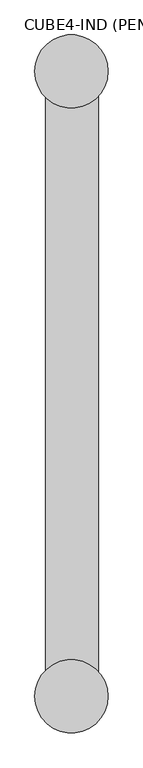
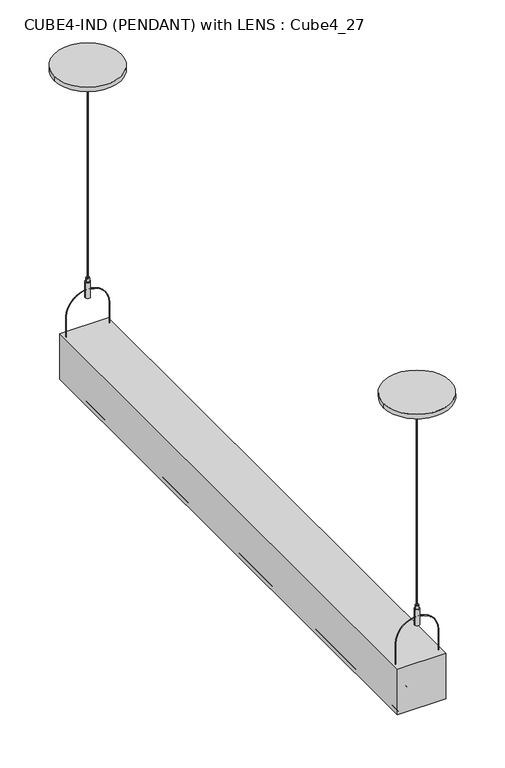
"""IFC4 building model written with IfcOpenShell, lengths in millimetres: light fixture geometry, CUBE4-IND (PENDANT) with LENS : Cube4_27."""

from ifc_helpers import new_model, si_unit, point, frame, frame_2d, origin, place, context, project, spatial, polyline, circle_curve, ellipse_curve, trimmed, segment, composite_curve, outline, extrude, source, transform, mapped, element, save
from ifc_brep_helpers import plane_surface, cylinder_surface, revolved_surface, advanced_brep


def cube4_ind_pendant_with_lens_cube4_27_f301a707(model_context):
    return source(origin(), model_context, "Body", "SolidModel", [
        extrude(outline(polyline([(40.890626, -245.9184955), (-39.1261014, -245.9184955), (-39.1261014, 963.9150258), (40.890626, 963.9150258), (40.890626, -245.9184955)])), frame((0.0, 0.0, 1756.1), z_axis=(0.0, 0.0, 1.0), x_axis=(1.0, 0.0, 0.0)), (0.0, 0.0, 1.0), 3.6292759),
        advanced_brep(
        [(45.6172841, 953.819066, 1855.1), (44.6172841, 953.819066, 1855.1), (44.6172841, 953.819066, 1900.1), (45.6172841, 953.819066, 1900.1), (-45.3827159, 953.819066, 1900.1), (-44.3827159, 953.819066, 1900.1), (-45.3827159, 953.819066, 1855.1), (-44.3827159, 953.819066, 1855.1)],
        [
            (0, 1, circle_curve(frame((45.1172841, 953.819066, 1855.1), z_axis=(0.0, 0.0, -1.0), x_axis=(-1.0, 0.0, 0.0)), 0.5)),
            (1, 0, circle_curve(frame((45.1172841, 953.819066, 1855.1), z_axis=(0.0, 0.0, -1.0), x_axis=(-1.0, 0.0, 0.0)), 0.5)),
            (1, 2),
            (2, 3, circle_curve(frame((45.1172841, 953.819066, 1900.1), z_axis=(0.0, 0.0, -1.0), x_axis=(-1.0, 0.0, 0.0)), 0.5)),
            (3, 0),
            (3, 2, circle_curve(frame((45.1172841, 953.819066, 1900.1), z_axis=(0.0, 0.0, -1.0), x_axis=(-1.0, 0.0, 0.0)), 0.5)),
            (4, 3, circle_curve(frame((0.1172841, 953.819066, 1900.1), z_axis=(0.0, 1.0, 0.0), x_axis=(1.0, 0.0, 0.0)), 45.5)),
            (2, 5, circle_curve(frame((0.1172841, 953.819066, 1900.1), z_axis=(0.0, -1.0, 0.0), x_axis=(1.0, 0.0, 0.0)), 44.5)),
            (5, 4, circle_curve(frame((-44.8827159, 953.819066, 1900.1), z_axis=(0.0, 0.0, 1.0), x_axis=(1.0, 0.0, 0.0)), 0.5)),
            (4, 5, circle_curve(frame((-44.8827159, 953.819066, 1900.1), z_axis=(0.0, 0.0, 1.0), x_axis=(1.0, 0.0, 0.0)), 0.5)),
            (6, 7, circle_curve(frame((-44.8827159, 953.819066, 1855.1), z_axis=(0.0, 0.0, -1.0), x_axis=(1.0, 0.0, 0.0)), 0.5)),
            (7, 6, circle_curve(frame((-44.8827159, 953.819066, 1855.1), z_axis=(0.0, 0.0, -1.0), x_axis=(1.0, 0.0, 0.0)), 0.5)),
            (5, 7),
            (6, 4),
        ],
        [
            plane_surface(frame((45.1172841, 709.2, 1855.1), z_axis=(0.0, 0.0, -1.0), x_axis=(0.0, 1.0, 0.0))),
            cylinder_surface(frame((45.1172841, 953.819066, 1855.1), z_axis=(0.0, 0.0, -1.0), x_axis=(-1.0, 0.0, 0.0)), 0.5),
            revolved_surface(trimmed(ellipse_curve(frame((45.1172841, 953.819066, 1900.1), z_axis=(0.0, 0.0, -1.0), x_axis=(-1.0, 0.0, 0.0)), 0.5, 0.5), [point((44.6172841, 953.819066, 1900.1))], [point((45.6172841, 953.819066, 1900.1))], True, "CARTESIAN"), (0.1172841, 709.2, 1900.1), (0.0, -1.0, 0.0)),
            revolved_surface(trimmed(ellipse_curve(frame((45.1172841, 953.819066, 1900.1), z_axis=(0.0, 0.0, -1.0), x_axis=(-1.0, 0.0, 0.0)), 0.5, 0.5), [point((45.6172841, 953.819066, 1900.1))], [point((44.6172841, 953.819066, 1900.1))], True, "CARTESIAN"), (0.1172841, 709.2, 1900.1), (0.0, -1.0, 0.0)),
            plane_surface(frame((-44.8827159, 709.2, 1855.1), z_axis=(0.0, 0.0, -1.0), x_axis=(0.0, 1.0, 0.0))),
            cylinder_surface(frame((-44.8827159, 953.819066, 1900.1), z_axis=(0.0, 0.0, 1.0), x_axis=(1.0, 0.0, 0.0)), 0.5),
        ],
        [
            (0, [[1, 2]]),
            (1, [[-2, 3, 4, 5]]),
            (1, [[-1, -5, 6, -3]]),
            (2, [[7, -4, 8, 9]]),
            (3, [[-8, -6, -7, 10]]),
            (4, [[11, 12]]),
            (5, [[-9, 13, -11, 14]]),
            (5, [[-10, -14, -12, -13]]),
        ],
    ),
        advanced_brep(
        [(45.6172841, -234.619066, 1855.1), (44.6172841, -234.619066, 1855.1), (45.6172841, -234.619066, 1900.1), (44.6172841, -234.619066, 1900.1), (-44.3827159, -234.619066, 1900.1), (-45.3827159, -234.619066, 1900.1), (-45.3827159, -234.619066, 1855.1), (-44.3827159, -234.619066, 1855.1)],
        [
            (0, 1, circle_curve(frame((45.1172841, -234.619066, 1855.1), z_axis=(0.0, 0.0, -1.0), x_axis=(-1.0, 0.0, 0.0)), 0.5)),
            (1, 0, circle_curve(frame((45.1172841, -234.619066, 1855.1), z_axis=(0.0, 0.0, -1.0), x_axis=(-1.0, 0.0, 0.0)), 0.5)),
            (0, 2),
            (2, 3, circle_curve(frame((45.1172841, -234.619066, 1900.1), z_axis=(0.0, 0.0, -1.0), x_axis=(-1.0, 0.0, 0.0)), 0.5)),
            (3, 1),
            (3, 2, circle_curve(frame((45.1172841, -234.619066, 1900.1), z_axis=(0.0, 0.0, -1.0), x_axis=(-1.0, 0.0, 0.0)), 0.5)),
            (4, 3, circle_curve(frame((0.1172841, -234.619066, 1900.1), z_axis=(0.0, 1.0, 0.0), x_axis=(1.0, 0.0, 0.0)), 44.5)),
            (2, 5, circle_curve(frame((0.1172841, -234.619066, 1900.1), z_axis=(0.0, -1.0, 0.0), x_axis=(1.0, 0.0, 0.0)), 45.5)),
            (5, 4, circle_curve(frame((-44.8827159, -234.619066, 1900.1), z_axis=(0.0, 0.0, 1.0), x_axis=(1.0, 0.0, 0.0)), 0.5)),
            (4, 5, circle_curve(frame((-44.8827159, -234.619066, 1900.1), z_axis=(0.0, 0.0, 1.0), x_axis=(1.0, 0.0, 0.0)), 0.5)),
            (6, 7, circle_curve(frame((-44.8827159, -234.619066, 1855.1), z_axis=(0.0, 0.0, -1.0), x_axis=(1.0, 0.0, 0.0)), 0.5)),
            (7, 6, circle_curve(frame((-44.8827159, -234.619066, 1855.1), z_axis=(0.0, 0.0, -1.0), x_axis=(1.0, 0.0, 0.0)), 0.5)),
            (5, 6),
            (7, 4),
        ],
        [
            plane_surface(frame((45.1172841, 0.0, 1855.1), z_axis=(0.0, 0.0, -1.0), x_axis=(0.0, -1.0, 0.0))),
            cylinder_surface(frame((45.1172841, -234.619066, 1855.1), z_axis=(0.0, 0.0, -1.0), x_axis=(-1.0, 0.0, 0.0)), 0.5),
            revolved_surface(trimmed(ellipse_curve(frame((45.1172841, -234.619066, 1900.1), z_axis=(0.0, 0.0, -1.0), x_axis=(-1.0, 0.0, 0.0)), 0.5, 0.5), [point((45.6172841, -234.619066, 1900.1))], [point((44.6172841, -234.619066, 1900.1))], True, "CARTESIAN"), (0.1172841, 0.0, 1900.1), (0.0, -1.0, 0.0)),
            revolved_surface(trimmed(ellipse_curve(frame((45.1172841, -234.619066, 1900.1), z_axis=(0.0, 0.0, -1.0), x_axis=(-1.0, 0.0, 0.0)), 0.5, 0.5), [point((44.6172841, -234.619066, 1900.1))], [point((45.6172841, -234.619066, 1900.1))], True, "CARTESIAN"), (0.1172841, 0.0, 1900.1), (0.0, -1.0, 0.0)),
            plane_surface(frame((-44.8827159, 0.0, 1855.1), z_axis=(0.0, 0.0, -1.0), x_axis=(0.0, -1.0, 0.0))),
            cylinder_surface(frame((-44.8827159, -234.619066, 1900.1), z_axis=(0.0, 0.0, 1.0), x_axis=(1.0, 0.0, 0.0)), 0.5),
        ],
        [
            (0, [[1, 2]]),
            (1, [[-1, 3, 4, 5]]),
            (1, [[-2, -5, 6, -3]]),
            (2, [[7, -4, 8, 9]]),
            (3, [[-8, -6, -7, 10]]),
            (4, [[11, 12]]),
            (5, [[-9, 13, -12, 14]]),
            (5, [[-10, -14, -11, -13]]),
        ],
    ),
        advanced_brep(
        [(-26.6161014, -245.9184955, 1804.9), (30.1516959, -245.9184955, 1804.9), (32.0083502, -245.9184955, 1806.2990893), (38.3175776, -245.9184955, 1828.3019801), (40.1728127, -245.9184955, 1829.7), (47.4538986, -245.9184955, 1829.7), (49.3838986, -245.9184955, 1827.77), (49.3838986, -245.9184955, 1764.5932726), (40.890626, -245.9184955, 1756.1), (28.7386989, -245.9184955, 1756.1), (31.594995, -245.9184955, 1754.1), (-36.3389485, -245.9184955, 1754.1), (-32.8748468, -245.9184955, 1756.1), (-39.1261014, -245.9184955, 1756.1), (-47.6161014, -245.9184955, 1764.59), (-47.6161014, -245.9184955, 1829.7), (-36.6372181, -245.9184955, 1829.7), (-34.781983, -245.9184955, 1828.3019801), (-28.4727556, -245.9184955, 1806.2990893), (-26.6161014, 963.9150258, 1804.9), (-28.4727556, 963.9150258, 1806.2990893), (-34.781983, 963.9150258, 1828.3019801), (-36.6372181, 963.9150258, 1829.7), (-47.6161014, 963.9150258, 1829.7), (-47.6161014, 963.9150258, 1764.59), (-39.1261014, 963.9150258, 1756.1), (-32.8748468, 963.9150258, 1756.1), (-36.3389485, 963.9150258, 1754.1), (31.594995, 963.9150258, 1754.1), (28.7386989, 963.9150258, 1756.1), (40.890626, 963.9150258, 1756.1), (49.3838986, 963.9150258, 1764.5932726), (49.3838986, 963.9150258, 1827.77), (47.4538986, 963.9150258, 1829.7), (40.1728127, 963.9150258, 1829.7), (38.3175776, 963.9150258, 1828.3019801), (32.0083502, 963.9150258, 1806.2990893), (30.1516959, 963.9150258, 1804.9), (51.3838986, -250.0, 1855.1), (-49.6161014, -250.0, 1855.1), (-49.6161014, -250.0, 1754.1), (51.3838986, -250.0, 1754.1), (51.3838986, 969.2, 1855.1), (51.3838986, 969.2, 1754.1), (-49.6161014, 969.2, 1754.1), (-49.6161014, 969.2, 1855.1)],
        [
            (0, 1),
            (1, 2, circle_curve(frame((30.1516959, -245.9184955, 1806.8314764), z_axis=(0.0, -1.0, 0.0), x_axis=(-1.0, 0.0, 0.0)), 1.9314764)),
            (2, 3),
            (3, 4, circle_curve(frame((40.1728127, -245.9184955, 1827.77), z_axis=(0.0, 1.0, 0.0), x_axis=(-1.0, 0.0, 0.0)), 1.93)),
            (4, 5),
            (5, 6, circle_curve(frame((47.4538986, -245.9184955, 1827.77), z_axis=(0.0, 1.0, 0.0), x_axis=(-1.0, 0.0, 0.0)), 1.93)),
            (6, 7),
            (7, 8, circle_curve(frame((40.890626, -245.9184955, 1764.5932726), z_axis=(0.0, 1.0, 0.0), x_axis=(-1.0, 0.0, 0.0)), 8.4932726)),
            (8, 9),
            (9, 10),
            (10, 11),
            (11, 12),
            (12, 13),
            (13, 14, circle_curve(frame((-39.1261014, -245.9184955, 1764.59), z_axis=(0.0, 1.0, 0.0), x_axis=(-1.0, 0.0, 0.0)), 8.49)),
            (14, 15),
            (15, 16),
            (16, 17, circle_curve(frame((-36.6372181, -245.9184955, 1827.77), z_axis=(0.0, 1.0, 0.0), x_axis=(1.0, 0.0, 0.0)), 1.93)),
            (17, 18),
            (18, 0, circle_curve(frame((-26.6161014, -245.9184955, 1806.8314764), z_axis=(0.0, -1.0, 0.0), x_axis=(1.0, 0.0, 0.0)), 1.9314764)),
            (19, 20, circle_curve(frame((-26.6161014, 963.9150258, 1806.8314764), z_axis=(0.0, 1.0, 0.0), x_axis=(1.0, 0.0, 0.0)), 1.9314764)),
            (20, 21),
            (21, 22, circle_curve(frame((-36.6372181, 963.9150258, 1827.77), z_axis=(0.0, -1.0, 0.0), x_axis=(1.0, 0.0, 0.0)), 1.93)),
            (22, 23),
            (23, 24),
            (24, 25, circle_curve(frame((-39.1261014, 963.9150258, 1764.59), z_axis=(0.0, -1.0, 0.0), x_axis=(-1.0, 0.0, 0.0)), 8.49)),
            (25, 26),
            (26, 27),
            (27, 28),
            (28, 29),
            (29, 30),
            (30, 31, circle_curve(frame((40.890626, 963.9150258, 1764.5932726), z_axis=(0.0, -1.0, 0.0), x_axis=(-1.0, 0.0, 0.0)), 8.4932726)),
            (31, 32),
            (32, 33, circle_curve(frame((47.4538986, 963.9150258, 1827.77), z_axis=(0.0, -1.0, 0.0), x_axis=(-1.0, 0.0, 0.0)), 1.93)),
            (33, 34),
            (34, 35, circle_curve(frame((40.1728127, 963.9150258, 1827.77), z_axis=(0.0, -1.0, 0.0), x_axis=(-1.0, 0.0, 0.0)), 1.93)),
            (35, 36),
            (36, 37, circle_curve(frame((30.1516959, 963.9150258, 1806.8314764), z_axis=(0.0, 1.0, 0.0), x_axis=(-1.0, 0.0, 0.0)), 1.9314764)),
            (37, 19),
            (18, 20),
            (19, 0),
            (17, 21),
            (16, 22),
            (15, 23),
            (14, 24),
            (13, 25),
            (12, 26),
            (11, 27),
            (9, 29),
            (28, 10),
            (8, 30),
            (7, 31),
            (6, 32),
            (5, 33),
            (4, 34),
            (3, 35),
            (2, 36),
            (1, 37),
            (38, 39),
            (39, 40),
            (40, 41),
            (41, 38),
            (42, 43),
            (43, 44),
            (44, 45),
            (45, 42),
            (38, 42),
            (45, 39),
            (44, 40),
            (43, 41),
        ],
        [
            plane_surface(frame((-24.684625, -245.9184955, 1806.8314764), z_axis=(0.0, 1.0, 0.0), x_axis=(0.0, 0.0, -1.0))),
            plane_surface(frame((-24.684625, 963.9150258, 1806.8314764), z_axis=(0.0, -1.0, 0.0), x_axis=(0.0, 0.0, 1.0))),
            cylinder_surface(frame((-26.6161014, 963.9150258, 1806.8314764), z_axis=(0.0, 1.0, 0.0), x_axis=(1.0, 0.0, 0.0)), 1.9314764),
            plane_surface(frame((-28.4727556, -245.9184955, 1806.2990893), z_axis=(-0.9612616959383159, 0.0, -0.27563735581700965), x_axis=(0.0, 1.0, 0.0))),
            revolved_surface(polyline([(-34.7072181, -245.91849550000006, 1827.77), (-34.7072181, 963.9150258, 1827.77)]), (-36.6372181, 963.9150258, 1827.77), (0.0, -1.0, 0.0)),
            plane_surface(frame((-36.6372181, -245.9184955, 1829.7), z_axis=(0.0, 0.0, -1.0), x_axis=(0.0, 1.0, 0.0))),
            plane_surface(frame((-47.6161014, -245.9184955, 1829.7), z_axis=(1.0, 0.0, 0.0), x_axis=(0.0, 1.0, 0.0))),
            revolved_surface(polyline([(-47.616101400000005, -245.91849550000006, 1764.59), (-47.616101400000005, 963.9150258, 1764.59)]), (-39.1261014, 963.9150258, 1764.59), (0.0, -1.0, 0.0)),
            plane_surface(frame((-39.1261014, -245.9184955, 1756.1), z_axis=(0.0, 0.0, 1.0), x_axis=(0.0, 1.0, 0.0))),
            plane_surface(frame((-32.8748468, -245.9184955, 1756.1), z_axis=(0.5000000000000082, 0.0, -0.866025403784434), x_axis=(0.0, 1.0, 0.0))),
            plane_surface(frame((31.594995, -245.9184955, 1754.1), z_axis=(-0.5735764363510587, 0.0, -0.819152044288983), x_axis=(0.0, 1.0, 0.0))),
            plane_surface(frame((28.7386989, -245.9184955, 1756.1), z_axis=(0.0, 0.0, 1.0), x_axis=(0.0, 1.0, 0.0))),
            revolved_surface(polyline([(32.3973534, -245.91849550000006, 1764.5932726), (32.3973534, 963.9150258, 1764.5932726)]), (40.890626, 963.9150258, 1764.5932726), (0.0, -1.0, 0.0)),
            plane_surface(frame((49.3838986, -245.9184955, 1764.5932726), z_axis=(-1.0, 0.0, 0.0), x_axis=(0.0, 1.0, 0.0))),
            revolved_surface(polyline([(45.5238986, -245.91849550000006, 1827.77), (45.5238986, 963.9150258, 1827.77)]), (47.4538986, 963.9150258, 1827.77), (0.0, -1.0, 0.0)),
            plane_surface(frame((47.4538986, -245.9184955, 1829.7), z_axis=(0.0, 0.0, -1.0), x_axis=(0.0, 1.0, 0.0))),
            revolved_surface(polyline([(38.2428127, -245.91849550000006, 1827.77), (38.2428127, 963.9150258, 1827.77)]), (40.1728127, 963.9150258, 1827.77), (0.0, -1.0, 0.0)),
            plane_surface(frame((38.3175776, -245.9184955, 1828.3019801), z_axis=(0.96126169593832, 0.0, -0.27563735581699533), x_axis=(0.0, 1.0, 0.0))),
            cylinder_surface(frame((30.1516959, 963.9150258, 1806.8314764), z_axis=(0.0, 1.0, 0.0), x_axis=(-1.0, 0.0, 0.0)), 1.9314764),
            plane_surface(frame((30.1516959, -245.9184955, 1804.9), z_axis=(0.0, 0.0, -1.0), x_axis=(0.0, 1.0, 0.0))),
            plane_surface(frame((-128.4812038, -250.0, 1855.1), z_axis=(0.0, -1.0, 0.0), x_axis=(-1.0, 0.0, 0.0))),
            plane_surface(frame((-128.4812038, 969.2, 1855.1), z_axis=(0.0, 1.0, 0.0), x_axis=(1.0, 0.0, 0.0))),
            plane_surface(frame((51.3838986, -250.0, 1855.1), z_axis=(0.0, 0.0, 1.0), x_axis=(0.0, 1.0, 0.0))),
            plane_surface(frame((-49.6161014, -250.0, 1855.1), z_axis=(-1.0, 0.0, 0.0), x_axis=(0.0, 1.0, 0.0))),
            plane_surface(frame((-49.6161014, -250.0, 1754.1), z_axis=(0.0, 0.0, -1.0), x_axis=(0.0, 1.0, 0.0))),
            plane_surface(frame((51.3838986, -250.0, 1754.1), z_axis=(1.0, 0.0, 0.0), x_axis=(0.0, 1.0, 0.0))),
        ],
        [
            (0, [[1, 2, 3, 4, 5, 6, 7, 8, 9, 10, 11, 12, 13, 14, 15, 16, 17, 18, 19]]),
            (1, [[20, 21, 22, 23, 24, 25, 26, 27, 28, 29, 30, 31, 32, 33, 34, 35, 36, 37, 38]]),
            (2, [[-19, 39, -20, 40]]),
            (3, [[-18, 41, -21, -39]]),
            (4, [[-17, 42, -22, -41]]),
            (5, [[-16, 43, -23, -42]]),
            (6, [[-15, 44, -24, -43]]),
            (7, [[-14, 45, -25, -44]]),
            (8, [[-13, 46, -26, -45]]),
            (9, [[-12, 47, -27, -46]]),
            (10, [[-10, 48, -29, 49]]),
            (11, [[-9, 50, -30, -48]]),
            (12, [[-8, 51, -31, -50]]),
            (13, [[-7, 52, -32, -51]]),
            (14, [[-6, 53, -33, -52]]),
            (15, [[-5, 54, -34, -53]]),
            (16, [[-4, 55, -35, -54]]),
            (17, [[-3, 56, -36, -55]]),
            (18, [[-2, 57, -37, -56]]),
            (19, [[-1, -40, -38, -57]]),
            (20, [[58, 59, 60, 61]]),
            (21, [[62, 63, 64, 65]]),
            (22, [[-58, 66, -65, 67]]),
            (23, [[-59, -67, -64, 68]]),
            (24, [[-60, -68, -63, 69], [-11, -49, -28, -47]]),
            (25, [[-61, -69, -62, -66]]),
        ],
    ),
        extrude(outline(polyline([(20.7058987, -245.9184955), (-20.467816, -245.9184955), (-20.467816, 963.9150258), (20.7058987, 963.9150258), (20.7058987, -245.9184955)])), frame((0.0, 0.0, 1763.5910879), z_axis=(0.0, 0.0, 1.0), x_axis=(1.0, 0.0, 0.0)), (0.0, 0.0, 1.0), 37.7956474),
        extrude(outline(composite_curve([segment(trimmed(circle_curve(frame_2d((0.0, -234.6101562)), 5.0601563), [point((5.0601562, -234.6101562))], [point((-5.0601563, -234.6101562))], False, "CARTESIAN"), True, "CONTINUOUS"), segment(trimmed(circle_curve(frame_2d((0.0, -234.6101562)), 5.0601562), [point((-5.0601563, -234.6101562))], [point((5.0601562, -234.6101562))], False, "CARTESIAN"), True, "CONTINUOUS")], self_intersect=False)), frame((0.0, 0.0, 1927.6373415), z_axis=(0.0, 0.0, 1.0), x_axis=(1.0, 0.0, 0.0)), (0.0, 0.0, 1.0), 34.528125),
        extrude(outline(composite_curve([segment(trimmed(circle_curve(frame_2d((0.0, -234.6101562)), 3.3734375), [point((3.3734375, -234.6101562))], [point((-3.3734375, -234.6101562))], False, "CARTESIAN"), True, "CONTINUOUS"), segment(trimmed(circle_curve(frame_2d((0.0, -234.6101562)), 3.3734375), [point((-3.3734375, -234.6101562))], [point((3.3734375, -234.6101562))], False, "CARTESIAN"), True, "CONTINUOUS")], self_intersect=False)), frame((0.0, 0.0, 1962.1654665), z_axis=(0.0, 0.0, 1.0), x_axis=(1.0, 0.0, 0.0)), (0.0, 0.0, 1.0), 7.9375),
        extrude(outline(composite_curve([segment(trimmed(circle_curve(frame_2d((0.0, -234.6101562)), 0.79375), [point((0.79375, -234.6101562))], [point((-0.79375, -234.6101562))], False, "CARTESIAN"), True, "CONTINUOUS"), segment(trimmed(circle_curve(frame_2d((0.0, -234.6101562)), 0.79375), [point((-0.79375, -234.6101562))], [point((0.79375, -234.6101562))], False, "CARTESIAN"), True, "CONTINUOUS")], self_intersect=False)), frame((0.0, 0.0, 1970.1029665), z_axis=(0.0, 0.0, 1.0), x_axis=(1.0, 0.0, 0.0)), (0.0, 0.0, 1.0), 430.1970335),
        extrude(outline(composite_curve([segment(trimmed(circle_curve(frame_2d((0.0, -234.6101562)), 69.85), [point((69.85, -234.6101562))], [point((-69.85, -234.6101562))], False, "CARTESIAN"), True, "CONTINUOUS"), segment(trimmed(circle_curve(frame_2d((0.0, -234.6101562)), 69.85), [point((-69.85, -234.6101562))], [point((69.85, -234.6101562))], False, "CARTESIAN"), True, "CONTINUOUS")], self_intersect=False)), frame((0.0, 0.0, 2428.875), z_axis=(0.0, 0.0, 1.0), x_axis=(1.0, 0.0, 0.0)), (0.0, 0.0, 1.0), 9.525),
        advanced_brep(
        [(0.0, -234.6101562, 2400.3), (-5.55625, -234.6101562, 2400.3), (5.55625, -234.6101562, 2400.3), (-5.55625, -234.6101562, 2422.525), (5.55625, -234.6101562, 2422.525), (-10.31875, -234.6101562, 2422.525), (10.31875, -234.6101562, 2422.525), (-10.31875, -234.6101562, 2428.875), (10.31875, -234.6101562, 2428.875), (0.0, -234.6101562, 2428.875)],
        [
            (0, 1),
            (1, 2, circle_curve(frame((0.0, -234.6101562, 2400.3), z_axis=(0.0, 0.0, -1.0), x_axis=(-1.0, 0.0, 0.0)), 5.55625)),
            (2, 0),
            (2, 1, circle_curve(frame((0.0, -234.6101562, 2400.3), z_axis=(0.0, 0.0, -1.0), x_axis=(-1.0, 0.0, 0.0)), 5.55625)),
            (1, 3),
            (3, 4, circle_curve(frame((0.0, -234.6101562, 2422.525), z_axis=(0.0, 0.0, -1.0), x_axis=(-1.0, 0.0, 0.0)), 5.55625)),
            (4, 2),
            (4, 3, circle_curve(frame((0.0, -234.6101562, 2422.525), z_axis=(0.0, 0.0, -1.0), x_axis=(-1.0, 0.0, 0.0)), 5.55625)),
            (3, 5),
            (5, 6, circle_curve(frame((0.0, -234.6101562, 2422.525), z_axis=(0.0, 0.0, -1.0), x_axis=(-1.0, 0.0, 0.0)), 10.31875)),
            (6, 4),
            (6, 5, circle_curve(frame((0.0, -234.6101562, 2422.525), z_axis=(0.0, 0.0, -1.0), x_axis=(-1.0, 0.0, 0.0)), 10.31875)),
            (5, 7),
            (7, 8, circle_curve(frame((0.0, -234.6101562, 2428.875), z_axis=(0.0, 0.0, -1.0), x_axis=(-1.0, 0.0, 0.0)), 10.31875)),
            (8, 6),
            (8, 7, circle_curve(frame((0.0, -234.6101562, 2428.875), z_axis=(0.0, 0.0, -1.0), x_axis=(-1.0, 0.0, 0.0)), 10.31875)),
            (7, 9),
            (9, 8),
        ],
        [
            plane_surface(frame((0.0, -234.6101562, 2400.3), z_axis=(0.0, 0.0, -1.0), x_axis=(-1.0, 0.0, 0.0))),
            cylinder_surface(frame((0.0, -234.6101562, 2400.3), z_axis=(0.0, 0.0, -1.0), x_axis=(-1.0, 0.0, 0.0)), 5.55625),
            plane_surface(frame((0.0, -234.6101562, 2422.525), z_axis=(0.0, 0.0, -1.0), x_axis=(-1.0, 0.0, 0.0))),
            cylinder_surface(frame((0.0, -234.6101562, 2400.3), z_axis=(0.0, 0.0, -1.0), x_axis=(-1.0, 0.0, 0.0)), 10.31875),
            plane_surface(frame((0.0, -234.6101562, 2428.875), z_axis=(0.0, 0.0, 1.0), x_axis=(-1.0, 0.0, 0.0))),
        ],
        [
            (0, [[1, 2, 3]]),
            (0, [[-3, 4, -1]]),
            (1, [[-2, 5, 6, 7]]),
            (1, [[-4, -7, 8, -5]]),
            (2, [[-6, 9, 10, 11]]),
            (2, [[-8, -11, 12, -9]]),
            (3, [[-10, 13, 14, 15]]),
            (3, [[-12, -15, 16, -13]]),
            (4, [[-14, 17, 18]]),
            (4, [[-16, -18, -17]]),
        ],
    ),
        extrude(outline(composite_curve([segment(trimmed(circle_curve(frame_2d((0.0, 954.1398438)), 5.0601563), [point((5.0601562, 954.1398438))], [point((-5.0601563, 954.1398438))], False, "CARTESIAN"), True, "CONTINUOUS"), segment(trimmed(circle_curve(frame_2d((0.0, 954.1398438)), 5.0601563), [point((-5.0601563, 954.1398438))], [point((5.0601562, 954.1398438))], False, "CARTESIAN"), True, "CONTINUOUS")], self_intersect=False)), frame((0.0, 0.0, 1927.6373415), z_axis=(0.0, 0.0, 1.0), x_axis=(1.0, 0.0, 0.0)), (0.0, 0.0, 1.0), 34.528125),
        extrude(outline(composite_curve([segment(trimmed(circle_curve(frame_2d((0.0, 954.1398438)), 3.3734375), [point((3.3734375, 954.1398438))], [point((-3.3734375, 954.1398438))], False, "CARTESIAN"), True, "CONTINUOUS"), segment(trimmed(circle_curve(frame_2d((0.0, 954.1398438)), 3.3734375), [point((-3.3734375, 954.1398438))], [point((3.3734375, 954.1398438))], False, "CARTESIAN"), True, "CONTINUOUS")], self_intersect=False)), frame((0.0, 0.0, 1962.1654665), z_axis=(0.0, 0.0, 1.0), x_axis=(1.0, 0.0, 0.0)), (0.0, 0.0, 1.0), 7.9375),
        extrude(outline(composite_curve([segment(trimmed(circle_curve(frame_2d((0.0, 954.1398438)), 0.79375), [point((0.79375, 954.1398438))], [point((-0.79375, 954.1398438))], False, "CARTESIAN"), True, "CONTINUOUS"), segment(trimmed(circle_curve(frame_2d((0.0, 954.1398438)), 0.79375), [point((-0.79375, 954.1398438))], [point((0.79375, 954.1398438))], False, "CARTESIAN"), True, "CONTINUOUS")], self_intersect=False)), frame((0.0, 0.0, 1970.1029665), z_axis=(0.0, 0.0, 1.0), x_axis=(1.0, 0.0, 0.0)), (0.0, 0.0, 1.0), 430.1970335),
        extrude(outline(composite_curve([segment(trimmed(circle_curve(frame_2d((0.0, 954.1398438)), 69.85), [point((69.85, 954.1398438))], [point((-69.85, 954.1398438))], False, "CARTESIAN"), True, "CONTINUOUS"), segment(trimmed(circle_curve(frame_2d((0.0, 954.1398438)), 69.85), [point((-69.85, 954.1398438))], [point((69.85, 954.1398438))], False, "CARTESIAN"), True, "CONTINUOUS")], self_intersect=False)), frame((0.0, 0.0, 2428.875), z_axis=(0.0, 0.0, 1.0), x_axis=(1.0, 0.0, 0.0)), (0.0, 0.0, 1.0), 9.525),
        advanced_brep(
        [(0.0, 954.1398438, 2400.3), (-5.55625, 954.1398438, 2400.3), (5.55625, 954.1398438, 2400.3), (-5.55625, 954.1398438, 2422.525), (5.55625, 954.1398438, 2422.525), (-10.31875, 954.1398438, 2422.525), (10.31875, 954.1398438, 2422.525), (-10.31875, 954.1398438, 2428.875), (10.31875, 954.1398438, 2428.875), (0.0, 954.1398438, 2428.875)],
        [
            (0, 1),
            (1, 2, circle_curve(frame((0.0, 954.1398438, 2400.3), z_axis=(0.0, 0.0, -1.0), x_axis=(-1.0, 0.0, 0.0)), 5.55625)),
            (2, 0),
            (2, 1, circle_curve(frame((0.0, 954.1398438, 2400.3), z_axis=(0.0, 0.0, -1.0), x_axis=(-1.0, 0.0, 0.0)), 5.55625)),
            (1, 3),
            (3, 4, circle_curve(frame((0.0, 954.1398438, 2422.525), z_axis=(0.0, 0.0, -1.0), x_axis=(-1.0, 0.0, 0.0)), 5.55625)),
            (4, 2),
            (4, 3, circle_curve(frame((0.0, 954.1398438, 2422.525), z_axis=(0.0, 0.0, -1.0), x_axis=(-1.0, 0.0, 0.0)), 5.55625)),
            (3, 5),
            (5, 6, circle_curve(frame((0.0, 954.1398438, 2422.525), z_axis=(0.0, 0.0, -1.0), x_axis=(-1.0, 0.0, 0.0)), 10.31875)),
            (6, 4),
            (6, 5, circle_curve(frame((0.0, 954.1398438, 2422.525), z_axis=(0.0, 0.0, -1.0), x_axis=(-1.0, 0.0, 0.0)), 10.31875)),
            (5, 7),
            (7, 8, circle_curve(frame((0.0, 954.1398438, 2428.875), z_axis=(0.0, 0.0, -1.0), x_axis=(-1.0, 0.0, 0.0)), 10.31875)),
            (8, 6),
            (8, 7, circle_curve(frame((0.0, 954.1398438, 2428.875), z_axis=(0.0, 0.0, -1.0), x_axis=(-1.0, 0.0, 0.0)), 10.31875)),
            (7, 9),
            (9, 8),
        ],
        [
            plane_surface(frame((0.0, 954.1398438, 2400.3), z_axis=(0.0, 0.0, -1.0), x_axis=(-1.0, 0.0, 0.0))),
            cylinder_surface(frame((0.0, 954.1398438, 2400.3), z_axis=(0.0, 0.0, -1.0), x_axis=(-1.0, 0.0, 0.0)), 5.55625),
            plane_surface(frame((0.0, 954.1398438, 2422.525), z_axis=(0.0, 0.0, -1.0), x_axis=(-1.0, 0.0, 0.0))),
            cylinder_surface(frame((0.0, 954.1398438, 2400.3), z_axis=(0.0, 0.0, -1.0), x_axis=(-1.0, 0.0, 0.0)), 10.31875),
            plane_surface(frame((0.0, 954.1398438, 2428.875), z_axis=(0.0, 0.0, 1.0), x_axis=(-1.0, 0.0, 0.0))),
        ],
        [
            (0, [[1, 2, 3]]),
            (0, [[-3, 4, -1]]),
            (1, [[-2, 5, 6, 7]]),
            (1, [[-4, -7, 8, -5]]),
            (2, [[-6, 9, 10, 11]]),
            (2, [[-8, -11, 12, -9]]),
            (3, [[-10, 13, 14, 15]]),
            (3, [[-12, -15, 16, -13]]),
            (4, [[-14, 17, 18]]),
            (4, [[-16, -18, -17]]),
        ],
    ),
    ])


if __name__ == "__main__":
    model = new_model("IFC4")
    model_context = context("Model", 3, world=origin())
    ifc_project = project(units=[si_unit("LENGTHUNIT", "METRE", prefix="MILLI")], contexts=[model_context])
    site = spatial("IfcSite", under=ifc_project)
    building = spatial("IfcBuilding", under=site)
    placement = place(None, origin())
    cube4_ind_pendant_with_lens_cube4_27_shape = cube4_ind_pendant_with_lens_cube4_27_f301a707(model_context)
    element("IfcLightFixture", 1, ObjectType="CUBE4-IND (PENDANT) with LENS : Cube4_27", at=placement, inside=building, context=model_context, shape_type="MappedRepresentation", body=[
        mapped(cube4_ind_pendant_with_lens_cube4_27_shape, transform((0.0, 0.0, 0.0), x_axis=(1.0, 0.0, 0.0), y_axis=(0.0, 1.0, 0.0), z_axis=(0.0, 0.0, 1.0))),
    ])
    save(model, "model.ifc")
